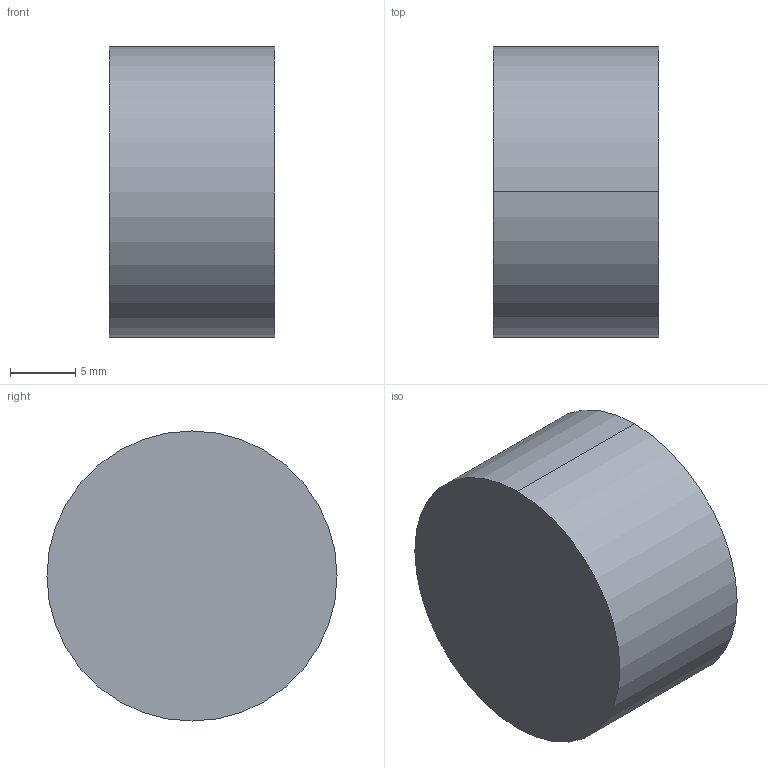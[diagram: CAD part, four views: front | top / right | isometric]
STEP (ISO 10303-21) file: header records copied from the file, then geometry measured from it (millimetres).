
FILE_DESCRIPTION (( 'STEP AP214' ), '1' );
FILE_NAME ('30l-front-out-plug.STEP', '2012-11-29T15:59:13', ( '' ), ( '' ), 'SwSTEP 2.0', 'SolidWorks 2012', '' );
FILE_SCHEMA (( 'AUTOMOTIVE_DESIGN' ));
Length unit declared in the file: inch
Products named in the file (1): 30l-front-out-plug
Bounding box: 12.7 x 22.23 x 22.23 mm (x, y, z)
Volume: 4716.1 mm3; surface area: 1922.1 mm2
Topology: 1 solids, 1 shells, 16 faces, 30 edges, 20 vertices
Faces by surface type: cylinder 10, plane 6
Entity records: 493 total; most frequent: DIRECTION 84, CARTESIAN_POINT 67, ORIENTED_EDGE 60, AXIS2_PLACEMENT_3D 37, EDGE_CURVE 30, VERTEX_POINT 20, EDGE_LOOP 20, CIRCLE 20
